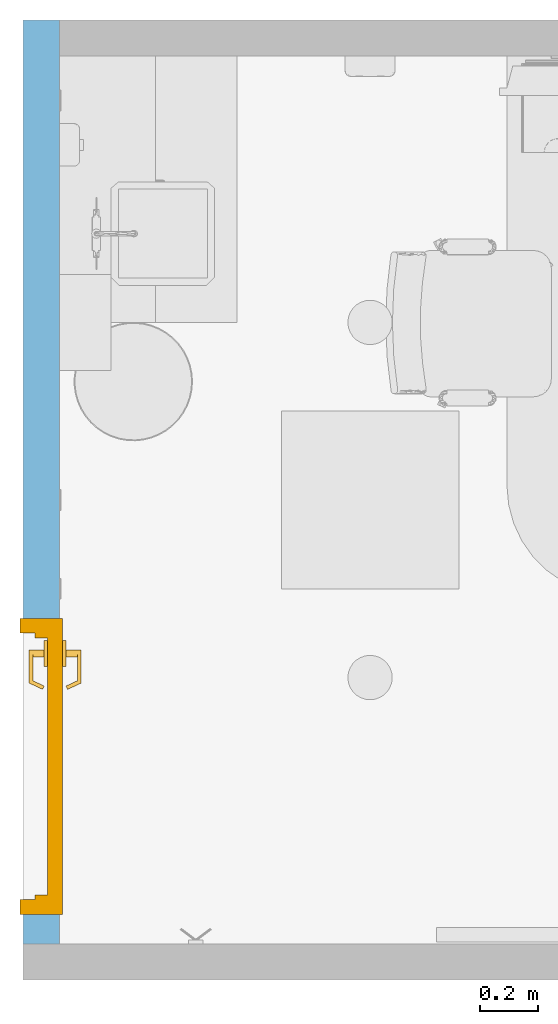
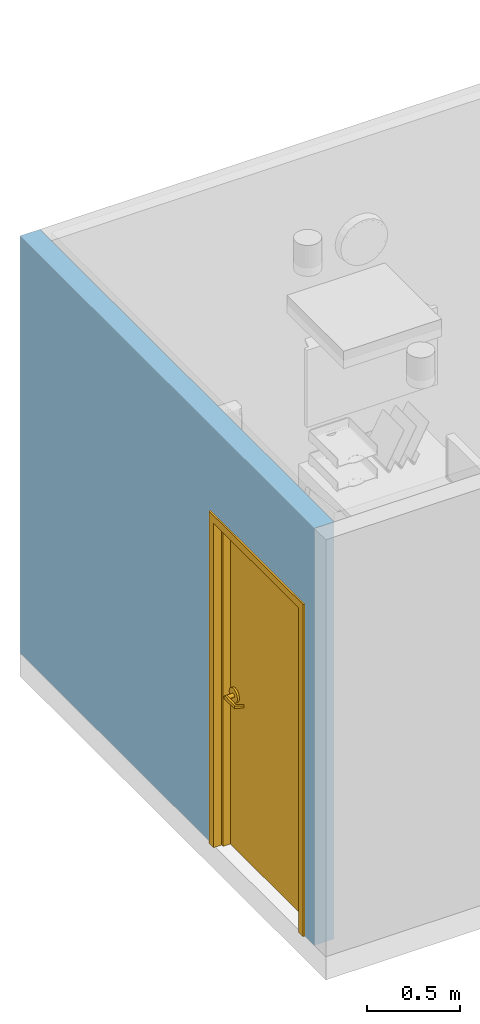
# One storey, part 2 of 10: 1 door, 1 opening, plus 1 element that does not belong to this part.
"""IFC2X3 building model written with IfcOpenShell, lengths in feet."""

import ifcopenshell
import ifcopenshell.guid

model = None  # the IFC model being written
_history = None  # IfcOwnerHistory: only IFC2X3 demands one
_inside = {}  # id of a spatial element -> (the spatial element, [elements in it])
_under = {}  # id of a project, library or spatial element -> (it, [spatial elements below it])
_declared = {}  # id of a project -> (the project, [libraries it declares])
_typed = {}  # id of a type object -> (the type object, [elements of that type])
_made_of = {}  # id of a material, layer set ... -> (it, [elements and type objects made of it])


def new_model(schema):
    """Start an empty IFC model of exactly this schema.

    Asked for "IFC4X3", IfcOpenShell would pick the latest addendum, in which some entities
    have other attributes; the version numbers below select the first issue.
    IFC2X3 requires an IfcOwnerHistory on every rooted entity: one is made here for all.
    """
    global model, _history
    if schema == "IFC4X3":
        model = ifcopenshell.file(schema_version=(4, 3, 0, 0))
    else:
        model = ifcopenshell.file(schema=schema)
    _inside.clear()
    _under.clear()
    _declared.clear()
    _typed.clear()
    _made_of.clear()
    _history = None
    if model.schema == "IFC2X3":
        org = make("IfcOrganization", Name="unknown")
        user = make(
            "IfcPersonAndOrganization",
            ThePerson=make("IfcPerson", FamilyName="unknown"),
            TheOrganization=org,
        )
        app = make(
            "IfcApplication",
            ApplicationDeveloper=org,
            Version="unknown",
            ApplicationFullName="unknown",
            ApplicationIdentifier="unknown",
        )
        _history = make(
            "IfcOwnerHistory",
            OwningUser=user,
            OwningApplication=app,
            ChangeAction="ADDED",
            CreationDate=0,
        )
    return model


def make(cls, **values):
    """One entity of the class cls with the attributes given. An attribute that is None is left unset."""
    return model.create_entity(
        cls, **{name: value for name, value in values.items() if value is not None}
    )


def entity(cls, *values):
    """Any entity or typed value of the class cls, its attributes in the order of the schema. None: left unset."""
    e = model.create_entity(cls)
    for i, value in enumerate(values):
        if value is not None:
            e[i] = value
    return e


def rooted(cls, **values):
    """An entity with a GlobalId (a new one), such as an element, a storey or a relation."""
    return make(cls, GlobalId=ifcopenshell.guid.new(), OwnerHistory=_history, **values)


def si_unit(unit_type, name, prefix=None):
    """IfcSIUnit, for example si_unit("LENGTHUNIT", "METRE", prefix="MILLI")."""
    return make("IfcSIUnit", UnitType=unit_type, Prefix=prefix, Name=name)


def converted_unit(unit_type, name, factor, base, dimensions=None, offset=None):
    """IfcConversionBasedUnit, such as the inch: factor (a typed value) times the base unit."""
    return make(
        "IfcConversionBasedUnit"
        if offset is None
        else "IfcConversionBasedUnitWithOffset",
        ConversionOffset=offset,
        Dimensions=None
        if dimensions is None
        else entity("IfcDimensionalExponents", *dimensions),
        UnitType=unit_type,
        Name=name,
        ConversionFactor=make(
            "IfcMeasureWithUnit", ValueComponent=factor, UnitComponent=base
        ),
    )


def derived_unit(unit_type, elements):
    """IfcDerivedUnit: a product of units, each with its exponent."""
    return make(
        "IfcDerivedUnit",
        Elements=[
            make("IfcDerivedUnitElement", Unit=unit, Exponent=power)
            for unit, power in elements
        ],
        UnitType=unit_type,
    )


def assignment(units):
    """IfcUnitAssignment: the units of a project."""
    return None if units is None else make("IfcUnitAssignment", Units=units)


def point(xyz):
    """IfcCartesianPoint."""
    return None if xyz is None else make("IfcCartesianPoint", Coordinates=xyz)


def direction(xyz):
    """IfcDirection."""
    return None if xyz is None else make("IfcDirection", DirectionRatios=xyz)


def frame(location, z_axis=None, x_axis=None):
    """IfcAxis2Placement3D, a coordinate frame: its origin and axes. An axis left out is left unset."""
    return make(
        "IfcAxis2Placement3D",
        Location=point(location),
        Axis=direction(z_axis),
        RefDirection=direction(x_axis),
    )


def frame_2d(location, x_axis=None):
    """IfcAxis2Placement2D, a coordinate frame in the plane: its origin and x axis."""
    return make(
        "IfcAxis2Placement2D", Location=point(location), RefDirection=direction(x_axis)
    )


def origin():
    """The frame at (0, 0, 0) with its axes left unset."""
    return frame((0.0, 0.0, 0.0))


def place(relative_to, where):
    """IfcLocalPlacement: puts the frame where relative to a parent placement (None: the world)."""
    return make(
        "IfcLocalPlacement", PlacementRelTo=relative_to, RelativePlacement=where
    )


def context(
    kind, dimensions, precision=None, world=None, true_north=None, identifier=None
):
    """IfcGeometricRepresentationContext, for example the 3D "Model" context."""
    return make(
        "IfcGeometricRepresentationContext",
        ContextIdentifier=identifier,
        ContextType=kind,
        CoordinateSpaceDimension=dimensions,
        Precision=precision,
        WorldCoordinateSystem=world,
        TrueNorth=true_north,
    )


def subcontext(parent, identifier, kind, view, scale=None):
    """IfcGeometricRepresentationSubContext, for example "Body" below "Model"."""
    return make(
        "IfcGeometricRepresentationSubContext",
        ContextIdentifier=identifier,
        ContextType=kind,
        ParentContext=parent,
        TargetScale=scale,
        TargetView=view,
    )


def project(units=None, contexts=None):
    """IfcProject with its units and contexts."""
    return rooted(
        "IfcProject",
        Name="project",
        RepresentationContexts=contexts,
        UnitsInContext=assignment(units),
    )


def spatial(cls, under=None, at=None, **own):
    """A site, building, storey or space (cls), placed at a placement, below another one or the project."""
    s = rooted(cls, ObjectPlacement=at, **own)
    if under is not None:
        _under.setdefault(under.id(), (under, []))[1].append(s)
    return s


def profile(cls, at=None, kind="AREA", **sizes):
    """A parametric profile (cls). Its sizes go by their IFC names, for example OverallWidth=200.0."""
    return make(cls, ProfileType=kind, Position=at, **sizes)


def rectangle(**sizes):
    """IfcRectangleProfileDef."""
    return profile("IfcRectangleProfileDef", **sizes)


def extrude(swept, where, along, depth):
    """IfcExtrudedAreaSolid: the profile swept, set in the frame where, extruded along a direction by depth."""
    return make(
        "IfcExtrudedAreaSolid",
        SweptArea=swept,
        Position=where,
        ExtrudedDirection=direction(along),
        Depth=depth,
    )


def faces_of(points, faces, orient=None, outer=None):
    """IfcFace entities. A face is a list of loops; a loop is a list of indices into points, from 0.

    orient and outer hold one flag for each loop. By default every Orientation is true, the
    first loop of a face is its IfcFaceOuterBound and the others are IfcFaceBound.
    """
    made = []
    for i, loops in enumerate(faces):
        bounds = []
        for j, loop in enumerate(loops):
            is_outer = j == 0 if outer is None else outer[i][j]
            bounds.append(
                make(
                    "IfcFaceOuterBound" if is_outer else "IfcFaceBound",
                    Bound=make("IfcPolyLoop", Polygon=[points[k] for k in loop]),
                    Orientation=True if orient is None else orient[i][j],
                )
            )
        made.append(make("IfcFace", Bounds=bounds))
    return made


def faceted_brep(points, faces, orient=None, outer=None, voids=None):
    """IfcFacetedBrep: a solid bounded by flat faces; with voids (closed shells), ...WithVoids."""
    shared = [point(p) for p in points]
    hull = make("IfcClosedShell", CfsFaces=faces_of(shared, faces, orient, outer))
    if voids is None:
        return make("IfcFacetedBrep", Outer=hull)
    return make(
        "IfcFacetedBrepWithVoids",
        Outer=hull,
        Voids=[
            make(cls, CfsFaces=faces_of(shared, fs, o, b)) for cls, fs, o, b in voids
        ],
    )


def shape(context_of_items, identifier, shape_type, items):
    """IfcShapeRepresentation: the items that make up one representation, for example the "Body"."""
    return make(
        "IfcShapeRepresentation",
        ContextOfItems=context_of_items,
        RepresentationIdentifier=identifier,
        RepresentationType=shape_type,
        Items=items,
    )


def source(mapping_origin, context_of_items, identifier, shape_type, items):
    """IfcRepresentationMap: a shape defined once, which mapped items show again and again."""
    return make(
        "IfcRepresentationMap",
        MappingOrigin=mapping_origin,
        MappedRepresentation=shape(context_of_items, identifier, shape_type, items),
    )


def transform(
    local_origin,
    x_axis=None,
    y_axis=None,
    z_axis=None,
    scale=None,
    scale2=None,
    scale3=None,
    uniform=True,
):
    """IfcCartesianTransformationOperator3D, or its non-uniform kind. x_axis, y_axis, z_axis: its Axis1, 2, 3."""
    if uniform:
        return make(
            "IfcCartesianTransformationOperator3D",
            Axis1=direction(x_axis),
            Axis2=direction(y_axis),
            LocalOrigin=point(local_origin),
            Scale=scale,
            Axis3=direction(z_axis),
        )
    return make(
        "IfcCartesianTransformationOperator3DnonUniform",
        Axis1=direction(x_axis),
        Axis2=direction(y_axis),
        LocalOrigin=point(local_origin),
        Scale=scale,
        Axis3=direction(z_axis),
        Scale2=scale2,
        Scale3=scale3,
    )


def mapped(mapping_source, mapping_target):
    """IfcMappedItem: shows the shape of a source again, moved by a transform."""
    return make(
        "IfcMappedItem", MappingSource=mapping_source, MappingTarget=mapping_target
    )


def material(Name=None, Category=None):
    """IfcMaterial."""
    return make("IfcMaterial", Name=Name, Category=Category)


def layer(
    of_material, thickness, ventilated=None, Name=None, Category=None, Priority=None
):
    """IfcMaterialLayer: one layer of a wall or slab, of a material (None: an air gap)."""
    return make(
        "IfcMaterialLayer",
        Material=of_material,
        LayerThickness=thickness,
        IsVentilated=ventilated,
        Name=Name,
        Category=Category,
        Priority=Priority,
    )


def layer_set(layers, Name=None):
    """IfcMaterialLayerSet."""
    return make("IfcMaterialLayerSet", MaterialLayers=layers, LayerSetName=Name)


def layer_usage(for_layer_set, set_direction, sense, offset, extent=None):
    """IfcMaterialLayerSetUsage: how a layer set lies in its element."""
    return make(
        "IfcMaterialLayerSetUsage",
        ForLayerSet=for_layer_set,
        LayerSetDirection=set_direction,
        DirectionSense=sense,
        OffsetFromReferenceLine=offset,
        ReferenceExtent=extent,
    )


def made_of(thing, what):
    """Note that an element or type object is made of a material, layer set ...; save() writes the relation."""
    if what is not None:
        _made_of.setdefault(what.id(), (what, []))[1].append(thing)
    return thing


def type_object(cls, material=None, **own):
    """A type object (cls), such as IfcWallType, which elements share."""
    return made_of(rooted(cls, **own), material)


def type_shapes(of_type, sources):
    """Give a type object the sources (RepresentationMaps) that its elements show as mapped items."""
    of_type.RepresentationMaps = sources


def element(
    cls,
    number,
    at=None,
    inside=None,
    cuts=None,
    type_object=None,
    material=None,
    context=None,
    identifier="Body",
    shape_type=None,
    held_by="IfcProductDefinitionShape",
    body=None,
    shapes=None,
    **own,
):
    """One element of the class cls, such as IfcWall. Its Tag is "e" and its number.

    at: its placement. inside: the storey or other place that contains it. cuts: it is an
    opening in that element (IfcRelVoidsElement). A single representation is given by context,
    identifier, shape_type and body (its items); several are given by shapes. held_by: the class
    of the entity that holds the representations. save() writes the other relations.
    """
    e = rooted(cls, Tag="e%d" % number, ObjectPlacement=at, **own)
    if body is not None:
        shapes = [shape(context, identifier, shape_type, body)]
    if shapes is not None:
        e.Representation = make(held_by, Representations=shapes)
    if inside is not None:
        _inside.setdefault(inside.id(), (inside, []))[1].append(e)
    if cuts is not None:
        rooted(
            "IfcRelVoidsElement", RelatingBuildingElement=cuts, RelatedOpeningElement=e
        )
    if type_object is not None:
        _typed.setdefault(type_object.id(), (type_object, []))[1].append(e)
    return made_of(e, material)


def fill(opening, filler):
    """IfcRelFillsElement: the door or window that sits in an opening."""
    return rooted(
        "IfcRelFillsElement",
        RelatingOpeningElement=opening,
        RelatedBuildingElement=filler,
    )


def aggregate(whole, parts):
    """IfcRelAggregates: a whole, such as a stair, and the parts it consists of."""
    return rooted("IfcRelAggregates", RelatingObject=whole, RelatedObjects=parts)


def save(model, path):
    """Write the relations noted so far, then the file.

    IfcRelAggregates (storeys below a building ...), IfcRelContainedInSpatialStructure (elements
    in a storey), IfcRelDefinesByType, IfcRelAssociatesMaterial and IfcRelDeclares: one each for
    every whole, place, type object, material and project.
    """
    for whole, parts in _under.values():
        aggregate(whole, parts)
    for where, things in _inside.values():
        rooted(
            "IfcRelContainedInSpatialStructure",
            RelatedElements=things,
            RelatingStructure=where,
        )
    for kind, things in _typed.values():
        rooted("IfcRelDefinesByType", RelatedObjects=things, RelatingType=kind)
    for what, things in _made_of.values():
        rooted("IfcRelAssociatesMaterial", RelatedObjects=things, RelatingMaterial=what)
    for by, libraries in _declared.values():
        rooted("IfcRelDeclares", RelatingContext=by, RelatedDefinitions=libraries)
    model.write(path)


model = new_model("IFC2X3")

# Units and contexts
model_context = context("Model", 3, precision=0.0001, world=origin(), true_north=direction((6.12303176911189e-17, 1.0)))
body_context = subcontext(model_context, "Body", "Model", "MODEL_VIEW")
ifc_project = project(units=[converted_unit("LENGTHUNIT", "FOOT", entity("IfcRatioMeasure", 0.3048), si_unit("LENGTHUNIT", "METRE"), dimensions=[1, 0, 0, 0, 0, 0, 0]), converted_unit("AREAUNIT", "SQUARE FOOT", entity("IfcRatioMeasure", 0.09290304), si_unit("AREAUNIT", "SQUARE_METRE"), dimensions=[2, 0, 0, 0, 0, 0, 0]), converted_unit("VOLUMEUNIT", "CUBIC FOOT", entity("IfcRatioMeasure", 0.028316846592), si_unit("VOLUMEUNIT", "CUBIC_METRE"), dimensions=[3, 0, 0, 0, 0, 0, 0]), converted_unit("PLANEANGLEUNIT", "DEGREE", entity("IfcRatioMeasure", 0.0174532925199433), si_unit("PLANEANGLEUNIT", "RADIAN"), dimensions=[0, 0, 0, 0, 0, 0, 0]), si_unit("MASSUNIT", "GRAM", prefix="KILO"), derived_unit("MASSDENSITYUNIT", [(si_unit("MASSUNIT", "GRAM", prefix="KILO"), 1), (si_unit("LENGTHUNIT", "METRE"), -3)]), si_unit("TIMEUNIT", "SECOND"), si_unit("FREQUENCYUNIT", "HERTZ"), si_unit("THERMODYNAMICTEMPERATUREUNIT", "DEGREE_CELSIUS"), derived_unit("THERMALTRANSMITTANCEUNIT", [(si_unit("MASSUNIT", "GRAM", prefix="KILO"), 1), (si_unit("THERMODYNAMICTEMPERATUREUNIT", "KELVIN"), -1), (si_unit("TIMEUNIT", "SECOND"), -3)]), derived_unit("VOLUMETRICFLOWRATEUNIT", [(si_unit("LENGTHUNIT", "METRE"), 3), (si_unit("TIMEUNIT", "SECOND"), -1)]), si_unit("ELECTRICCURRENTUNIT", "AMPERE"), si_unit("ELECTRICVOLTAGEUNIT", "VOLT"), si_unit("POWERUNIT", "WATT"), si_unit("FORCEUNIT", "NEWTON"), si_unit("ILLUMINANCEUNIT", "LUX"), si_unit("LUMINOUSFLUXUNIT", "LUMEN"), si_unit("LUMINOUSINTENSITYUNIT", "CANDELA"), derived_unit("USERDEFINED", [(si_unit("MASSUNIT", "GRAM", prefix="KILO"), -1), (si_unit("LENGTHUNIT", "METRE"), -2), (si_unit("TIMEUNIT", "SECOND"), 3), (si_unit("LUMINOUSFLUXUNIT", "LUMEN"), 1)]), derived_unit("LINEARVELOCITYUNIT", [(si_unit("LENGTHUNIT", "METRE"), 1), (si_unit("TIMEUNIT", "SECOND"), -1)]), si_unit("PRESSUREUNIT", "PASCAL"), derived_unit("USERDEFINED", [(si_unit("LENGTHUNIT", "METRE"), -2), (si_unit("MASSUNIT", "GRAM", prefix="KILO"), 1), (si_unit("TIMEUNIT", "SECOND"), -2)])], contexts=[model_context])

# Site, building, storey
site_placement = place(None, origin())
site = spatial("IfcSite", under=ifc_project, at=site_placement, Name="Default", CompositionType="ELEMENT")
building_placement = place(site_placement, origin())
building = spatial("IfcBuilding", under=site, at=building_placement, Name="OUTPATIENT / PACT CLINIC (Ch. 265)", CompositionType="ELEMENT")
storey_placement = place(building_placement, origin())
storey = spatial("IfcBuildingStorey", under=building, at=storey_placement, Name="DATUM", CompositionType="ELEMENT", Elevation=0.0)

# Wall, opening, door
ifc_material = material(Name="<Unnamed>")
ifc_layer = layer(ifc_material, 0.40625)
ifc_layer_set = layer_set([ifc_layer], Name="Basic Wall:Interior - 4 7/8\"")
ifc_layer_usage = layer_usage(ifc_layer_set, "AXIS2", "NEGATIVE", 0.203125)
wall_type = type_object("IfcWallType", Name="Basic Wall:Interior - 4 7/8\"", PredefinedType="STANDARD", material=ifc_layer_set)
wall_placement = place(storey_placement, frame((-78.4584893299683, -861.690450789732, 0.0), z_axis=(0.0, 0.0, 1.0), x_axis=(0.0, 1.0, 0.0)))
wall = element("IfcWallStandardCase", 1, at=wall_placement, inside=storey, type_object=wall_type, material=ifc_layer_usage, Name="Basic Wall:Interior - 4 7/8\"", ObjectType="Basic Wall:Interior - 4 7/8\"", context=body_context, shape_type="SweptSolid", body=[
    extrude(rectangle(XDim=10.40625, YDim=0.40625, at=frame_2d((5.203125, 7.91033905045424e-16), x_axis=(-1.0, 0.0))), origin(), (0.0, 0.0, 1.0), 9.0),
])
opening_placement = place(wall_placement, frame((3.66666666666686, 0.203125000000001, 0.0)))
opening = element("IfcOpeningElement", 2, at=opening_placement, cuts=wall, Name="Single - Flush:36\" x 84\":1", ObjectType="Opening", context=body_context, shape_type="SweptSolid", body=[
    extrude(rectangle(XDim=3.33333333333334, YDim=7.16666666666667, at=frame_2d((3.58333333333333, 1.66666666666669), x_axis=(0.0, 1.0))), frame((0.0, 0.0, 0.0), z_axis=(0.0, -1.0, 0.0), x_axis=(0.0, 0.0, 1.0)), (0.0, 0.0, 1.0), 0.40625),
])
door_style = type_object("IfcDoorStyle", Name="36\" x 84\"", ConstructionType="NOTDEFINED", OperationType="NOTDEFINED", ParameterTakesPrecedence=False, Sizeable=False)
shared_shape = source(origin(), body_context, "Body", "Brep", [
    faceted_brep([(-2.57149311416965, 0.23636872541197, 3.3541666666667), (-2.57149311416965, 0.23636872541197, 3.31250000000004), (-2.62432039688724, 0.12308025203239, 3.30208333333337), (-2.63071126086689, 0.109375, 3.30208333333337), (-2.63071126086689, 0.109375, 3.36458333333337), (-2.62432039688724, 0.123080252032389, 3.36458333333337), (-2.53373028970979, 0.218759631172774, 3.3541666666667), (-2.58655757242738, 0.105471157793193, 3.36458333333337), (-2.60416666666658, 0.0677083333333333, 3.36458333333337), (-2.60416666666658, 0.0677083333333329, 3.30208333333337), (-2.58655757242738, 0.105471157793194, 3.30208333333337), (-2.53373028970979, 0.218759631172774, 3.31250000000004), (-2.60416666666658, 0.109375, 3.30208333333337), (-2.60416666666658, 0.109375, 3.36458333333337), (-2.93619600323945, 0.0677083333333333, 3.29168707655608), (-2.93619600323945, 0.0677083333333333, 3.37497959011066), (-2.94639661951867, 0.0677083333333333, 3.37403912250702), (-2.95605949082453, 0.0677083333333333, 3.37063824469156), (-2.96460055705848, 0.0677083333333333, 3.36498251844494), (-2.97150356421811, 0.0677083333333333, 3.35741379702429), (-2.97635126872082, 0.0677083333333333, 3.34838956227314), (-2.97885065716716, 0.0677083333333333, 3.33845527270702), (-2.97885065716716, 0.0677083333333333, 3.32821139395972), (-2.97635126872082, 0.0677083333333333, 3.31827710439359), (-2.97150356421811, 0.0677083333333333, 3.30925286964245), (-2.96460055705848, 0.0677083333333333, 3.3016841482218), (-2.95605949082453, 0.0677083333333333, 3.29602842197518), (-2.94639661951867, 0.0677083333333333, 3.29262754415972), (-2.93619600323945, 0.109375, 3.29168707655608), (-2.92566985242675, 0.109375, 3.29338137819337), (-2.91591827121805, 0.109375, 3.29769150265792), (-2.90757973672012, 0.109375, 3.30433524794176), (-2.90120020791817, 0.109375, 3.31287762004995), (-2.89719737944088, 0.109375, 3.32275931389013), (-2.89583333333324, 0.109375, 3.33333333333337), (-2.89719737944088, 0.109375, 3.34390735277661), (-2.90120020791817, 0.109375, 3.35378904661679), (-2.90757973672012, 0.109375, 3.36233141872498), (-2.91591827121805, 0.109375, 3.36897516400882), (-2.92566985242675, 0.109375, 3.37328528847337), (-2.93619600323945, 0.109375, 3.37497959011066), (-2.94568224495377, 0.109375, 3.29247795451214), (-2.95473886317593, 0.109375, 3.2954000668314), (-2.96972778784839, 0.109375, 3.30692347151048), (-2.96289592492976, 0.109375, 3.30030065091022), (-2.97487870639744, 0.109375, 3.31492291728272), (-2.97808054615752, 0.109375, 3.32388185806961), (-2.97916666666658, 0.109375, 3.33333333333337), (-2.97808054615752, 0.109375, 3.34278480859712), (-2.97487870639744, 0.109375, 3.35174374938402), (-2.96289592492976, 0.109375, 3.36636601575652), (-2.96972778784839, 0.109375, 3.35974319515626), (-2.95473886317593, 0.109375, 3.37126659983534), (-2.94568224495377, 0.109375, 3.3741887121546), (-2.97916666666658, 0.234375, 3.33333333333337), (-2.97774690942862, 0.234375, 3.34411746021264), (-2.97358439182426, 0.234375, 3.3541666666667), (-2.95833333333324, 0.234375, 3.36941772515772), (-2.96696278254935, 0.234375, 3.36279611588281), (-2.94828412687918, 0.234375, 3.37358024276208), (-2.93749999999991, 0.234375, 3.37500000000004), (-2.92671587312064, 0.234375, 3.37358024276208), (-2.91666666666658, 0.234375, 3.36941772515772), (-2.90141560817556, 0.234375, 3.3541666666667), (-2.90803721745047, 0.234375, 3.36279611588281), (-2.8972530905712, 0.234375, 3.34411746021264), (-2.89583333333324, 0.234375, 3.33333333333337), (-2.8972530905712, 0.234375, 3.3225492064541), (-2.90141560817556, 0.234375, 3.31250000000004), (-2.91666666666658, 0.234375, 3.29724894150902), (-2.90803721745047, 0.234375, 3.30387055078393), (-2.92671587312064, 0.234375, 3.29308642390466), (-2.93749999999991, 0.234375, 3.2916666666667), (-2.94828412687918, 0.234375, 3.29308642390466), (-2.95833333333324, 0.234375, 3.29724894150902), (-2.97358439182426, 0.234375, 3.31250000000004), (-2.96696278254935, 0.234375, 3.30387055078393), (-2.97774690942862, 0.234375, 3.3225492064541), (-2.86458333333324, 0.234375, 3.4596287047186), (-2.83438026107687, 0.234375, 3.43645307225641), (-2.89975555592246, 0.234375, 3.47419751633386), (-2.93749999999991, 0.234375, 3.4791666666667), (-2.97524444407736, 0.234375, 3.47419751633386), (-3.01041666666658, 0.234375, 3.4596287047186), (-3.04061973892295, 0.234375, 3.43645307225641), (-3.06379537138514, 0.234375, 3.40625000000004), (-3.0783641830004, 0.234375, 3.37107777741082), (-3.08333333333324, 0.234375, 3.33333333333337), (-3.0783641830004, 0.234375, 3.29558888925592), (-3.06379537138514, 0.234375, 3.2604166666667), (-3.04061973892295, 0.234375, 3.23021359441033), (-3.01041666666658, 0.234375, 3.20703796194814), (-2.97524444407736, 0.234375, 3.19246915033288), (-2.93749999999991, 0.234375, 3.18750000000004), (-2.89975555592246, 0.234375, 3.19246915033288), (-2.86458333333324, 0.234375, 3.20703796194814), (-2.83438026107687, 0.234375, 3.23021359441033), (-2.81120462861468, 0.234375, 3.2604166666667), (-2.79663581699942, 0.234375, 3.29558888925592), (-2.79166666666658, 0.234375, 3.33333333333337), (-2.79663581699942, 0.234375, 3.37107777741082), (-2.81120462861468, 0.234375, 3.40625000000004), (-2.89975555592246, 0.276041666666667, 3.19246915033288), (-2.93749999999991, 0.276041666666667, 3.18750000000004), (-2.97524444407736, 0.276041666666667, 3.19246915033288), (-3.01041666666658, 0.276041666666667, 3.20703796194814), (-3.04061973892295, 0.276041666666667, 3.23021359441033), (-3.06379537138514, 0.276041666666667, 3.2604166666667), (-3.0783641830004, 0.276041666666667, 3.29558888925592), (-3.08333333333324, 0.276041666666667, 3.33333333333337), (-3.0783641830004, 0.276041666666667, 3.37107777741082), (-3.06379537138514, 0.276041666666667, 3.40625000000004), (-3.04061973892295, 0.276041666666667, 3.43645307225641), (-3.01041666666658, 0.276041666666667, 3.4596287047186), (-2.97524444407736, 0.276041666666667, 3.47419751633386), (-2.93749999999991, 0.276041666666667, 3.4791666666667), (-2.89975555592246, 0.276041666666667, 3.47419751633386), (-2.86458333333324, 0.276041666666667, 3.4596287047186), (-2.83438026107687, 0.276041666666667, 3.43645307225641), (-2.81120462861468, 0.276041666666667, 3.40625000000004), (-2.79663581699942, 0.276041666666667, 3.37107777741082), (-2.79166666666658, 0.276041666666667, 3.33333333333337), (-2.79663581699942, 0.276041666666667, 3.29558888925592), (-2.81120462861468, 0.276041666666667, 3.2604166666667), (-2.83438026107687, 0.276041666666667, 3.23021359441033), (-2.86458333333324, 0.276041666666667, 3.20703796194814)], [[[0, 1, 2, 3, 4, 5]], [[6, 7, 8, 9, 10, 11]], [[12, 3, 2, 10, 9]], [[11, 10, 2, 1]], [[11, 1, 0, 6]], [[7, 6, 0, 5]], [[13, 8, 7, 5, 4]], [[14, 9, 8, 15, 16, 17, 18, 19, 20, 21, 22, 23, 24, 25, 26, 27]], [[3, 12, 28, 29, 30, 31, 32, 33, 34, 35, 36, 37, 38, 39, 40, 13, 4]], [[28, 12, 9, 14]], [[28, 14, 41]], [[41, 27, 42]], [[43, 44, 25]], [[24, 45, 43]], [[26, 44, 42]], [[45, 23, 46]], [[27, 26, 42]], [[41, 14, 27]], [[45, 24, 23]], [[24, 43, 25]], [[44, 26, 25]], [[46, 23, 22]], [[22, 47, 46]], [[47, 21, 48]], [[48, 20, 49]], [[50, 51, 18]], [[17, 52, 50]], [[19, 51, 49]], [[52, 16, 53]], [[51, 19, 18]], [[49, 20, 19]], [[48, 21, 20]], [[53, 16, 15]], [[16, 52, 17]], [[50, 18, 17]], [[40, 53, 15]], [[22, 21, 47]], [[40, 15, 8, 13]], [[54, 48, 55]], [[55, 49, 56]], [[57, 58, 50]], [[51, 58, 56]], [[59, 57, 52]], [[48, 49, 55]], [[54, 47, 48]], [[57, 50, 52]], [[50, 58, 51]], [[56, 49, 51]], [[59, 52, 53]], [[53, 60, 59]], [[60, 40, 61]], [[61, 39, 62]], [[63, 64, 37]], [[36, 65, 63]], [[38, 64, 62]], [[65, 35, 66]], [[39, 38, 62]], [[61, 40, 39]], [[65, 36, 35]], [[36, 63, 37]], [[64, 38, 37]], [[66, 35, 34]], [[53, 40, 60]], [[66, 33, 67]], [[67, 32, 68]], [[69, 70, 30]], [[31, 70, 68]], [[71, 69, 29]], [[33, 32, 67]], [[66, 34, 33]], [[69, 30, 29]], [[30, 70, 31]], [[68, 32, 31]], [[71, 29, 28]], [[28, 72, 71]], [[72, 41, 73]], [[73, 42, 74]], [[75, 76, 43]], [[45, 77, 75]], [[44, 76, 74]], [[77, 46, 54]], [[42, 44, 74]], [[73, 41, 42]], [[77, 45, 46]], [[45, 75, 43]], [[76, 44, 43]], [[54, 46, 47]], [[28, 41, 72]], [[78, 61, 62]], [[78, 62, 79]], [[78, 80, 61]], [[60, 61, 80]], [[81, 60, 80]], [[60, 81, 59]], [[82, 59, 81]], [[82, 57, 59]], [[57, 82, 83]], [[57, 83, 58]], [[84, 58, 83]], [[58, 84, 56]], [[56, 84, 85]], [[56, 85, 55]], [[55, 85, 86]], [[54, 55, 86]], [[87, 54, 86]], [[77, 54, 87]], [[88, 77, 87]], [[75, 77, 88]], [[89, 75, 88]], [[75, 89, 90]], [[76, 75, 90]], [[90, 91, 76]], [[91, 74, 76]], [[74, 91, 92]], [[74, 92, 73]], [[92, 93, 73]], [[72, 73, 93]], [[93, 94, 72]], [[72, 94, 71]], [[95, 71, 94]], [[71, 95, 69]], [[69, 95, 96]], [[70, 69, 96]], [[97, 70, 96]], [[68, 70, 97]], [[98, 68, 97]], [[68, 98, 67]], [[67, 98, 99]], [[99, 66, 67]], [[99, 100, 66]], [[65, 66, 100]], [[101, 65, 100]], [[64, 101, 79]], [[101, 63, 65]], [[63, 101, 64]], [[64, 79, 62]], [[102, 103, 104, 105, 106, 107, 108, 109, 110, 111, 112, 113, 114, 115, 116, 117, 118, 119, 120, 121, 122, 123, 124, 125]], [[109, 87, 86, 110]], [[110, 86, 85, 111]], [[113, 112, 84, 83]], [[84, 112, 111, 85]], [[114, 113, 83, 82]], [[114, 82, 81, 115]], [[115, 81, 80, 116]], [[116, 80, 78, 117]], [[119, 118, 79, 101]], [[79, 118, 117, 78]], [[120, 119, 101, 100]], [[120, 100, 99, 121]], [[121, 99, 98, 122]], [[122, 98, 97, 123]], [[125, 124, 96, 95]], [[96, 124, 123, 97]], [[102, 125, 95, 94]], [[102, 94, 93, 103]], [[103, 93, 92, 104]], [[104, 92, 91, 105]], [[107, 106, 90, 89]], [[90, 106, 105, 91]], [[108, 107, 89, 88]], [[108, 88, 87, 109]]]),
    faceted_brep([(-2.57149311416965, 0.482381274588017, 3.31249999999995), (-2.57149311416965, 0.482381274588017, 3.35416666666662), (-2.62432039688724, 0.595669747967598, 3.36458333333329), (-2.63071126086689, 0.609374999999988, 3.36458333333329), (-2.63071126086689, 0.609374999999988, 3.30208333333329), (-2.62432039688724, 0.595669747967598, 3.30208333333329), (-2.53373028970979, 0.499990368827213, 3.31249999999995), (-2.58655757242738, 0.613278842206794, 3.30208333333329), (-2.60416666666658, 0.651041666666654, 3.30208333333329), (-2.60416666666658, 0.651041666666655, 3.36458333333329), (-2.58655757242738, 0.613278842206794, 3.36458333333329), (-2.53373028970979, 0.499990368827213, 3.35416666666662), (-2.60416666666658, 0.609374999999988, 3.36458333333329), (-2.60416666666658, 0.609374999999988, 3.30208333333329), (-2.93619600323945, 0.651041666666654, 3.37497959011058), (-2.93619600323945, 0.651041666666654, 3.291687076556), (-2.94639661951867, 0.651041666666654, 3.29262754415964), (-2.95605949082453, 0.651041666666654, 3.2960284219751), (-2.96460055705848, 0.651041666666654, 3.30168414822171), (-2.97150356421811, 0.651041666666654, 3.30925286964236), (-2.97635126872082, 0.651041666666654, 3.31827710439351), (-2.97885065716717, 0.651041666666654, 3.32821139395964), (-2.97885065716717, 0.651041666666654, 3.33845527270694), (-2.97635126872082, 0.651041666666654, 3.34838956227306), (-2.97150356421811, 0.651041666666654, 3.35741379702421), (-2.96460055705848, 0.651041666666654, 3.36498251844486), (-2.95605949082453, 0.651041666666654, 3.37063824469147), (-2.94639661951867, 0.651041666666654, 3.37403912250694), (-2.93619600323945, 0.609374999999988, 3.37497959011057), (-2.92566985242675, 0.609374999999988, 3.37328528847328), (-2.91591827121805, 0.609374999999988, 3.36897516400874), (-2.90757973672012, 0.609374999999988, 3.3623314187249), (-2.90120020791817, 0.609374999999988, 3.35378904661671), (-2.89719737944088, 0.609374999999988, 3.34390735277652), (-2.89583333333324, 0.609374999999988, 3.33333333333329), (-2.89719737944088, 0.609374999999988, 3.32275931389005), (-2.90120020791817, 0.609374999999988, 3.31287762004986), (-2.90757973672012, 0.609374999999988, 3.30433524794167), (-2.91591827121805, 0.609374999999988, 3.29769150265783), (-2.92566985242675, 0.609374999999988, 3.29338137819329), (-2.93619600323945, 0.609374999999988, 3.291687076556), (-2.94568224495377, 0.609374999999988, 3.37418871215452), (-2.95473886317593, 0.609374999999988, 3.37126659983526), (-2.96972778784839, 0.609374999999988, 3.35974319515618), (-2.96289592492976, 0.609374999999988, 3.36636601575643), (-2.97487870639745, 0.609374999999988, 3.35174374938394), (-2.97808054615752, 0.609374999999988, 3.34278480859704), (-2.97916666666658, 0.609374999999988, 3.33333333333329), (-2.97808054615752, 0.609374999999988, 3.32388185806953), (-2.97487870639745, 0.609374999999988, 3.31492291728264), (-2.96289592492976, 0.609374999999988, 3.30030065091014), (-2.96972778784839, 0.609374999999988, 3.30692347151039), (-2.95473886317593, 0.609374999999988, 3.29540006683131), (-2.94568224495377, 0.609374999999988, 3.29247795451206), (-2.97916666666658, 0.484374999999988, 3.33333333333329), (-2.97774690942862, 0.484374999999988, 3.32254920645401), (-2.97358439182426, 0.484374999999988, 3.31249999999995), (-2.95833333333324, 0.484374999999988, 3.29724894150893), (-2.96696278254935, 0.484374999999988, 3.30387055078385), (-2.94828412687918, 0.484374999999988, 3.29308642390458), (-2.93749999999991, 0.484374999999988, 3.29166666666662), (-2.92671587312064, 0.484374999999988, 3.29308642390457), (-2.91666666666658, 0.484374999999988, 3.29724894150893), (-2.90141560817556, 0.484374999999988, 3.31249999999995), (-2.90803721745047, 0.484374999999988, 3.30387055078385), (-2.8972530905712, 0.484374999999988, 3.32254920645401), (-2.89583333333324, 0.484374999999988, 3.33333333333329), (-2.8972530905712, 0.484374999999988, 3.34411746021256), (-2.90141560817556, 0.484374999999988, 3.35416666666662), (-2.91666666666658, 0.484374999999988, 3.36941772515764), (-2.90803721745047, 0.484374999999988, 3.36279611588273), (-2.92671587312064, 0.484374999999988, 3.373580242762), (-2.93749999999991, 0.484374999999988, 3.37499999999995), (-2.94828412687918, 0.484374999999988, 3.373580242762), (-2.95833333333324, 0.484374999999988, 3.36941772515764), (-2.97358439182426, 0.484374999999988, 3.35416666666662), (-2.96696278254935, 0.484374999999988, 3.36279611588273), (-2.97774690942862, 0.484374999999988, 3.34411746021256), (-2.86458333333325, 0.484374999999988, 3.20703796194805), (-2.83438026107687, 0.484374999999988, 3.23021359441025), (-2.89975555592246, 0.484374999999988, 3.1924691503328), (-2.93749999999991, 0.484374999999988, 3.18749999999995), (-2.97524444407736, 0.484374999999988, 3.1924691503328), (-3.01041666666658, 0.484374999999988, 3.20703796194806), (-3.04061973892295, 0.484374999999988, 3.23021359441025), (-3.06379537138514, 0.484374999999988, 3.26041666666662), (-3.0783641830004, 0.484374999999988, 3.29558888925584), (-3.08333333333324, 0.484374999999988, 3.33333333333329), (-3.0783641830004, 0.484374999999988, 3.37107777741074), (-3.06379537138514, 0.484374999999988, 3.40624999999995), (-3.04061973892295, 0.484374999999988, 3.43645307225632), (-3.01041666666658, 0.484374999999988, 3.45962870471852), (-2.97524444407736, 0.484374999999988, 3.47419751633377), (-2.93749999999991, 0.484374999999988, 3.47916666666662), (-2.89975555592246, 0.484374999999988, 3.47419751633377), (-2.86458333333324, 0.484374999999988, 3.45962870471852), (-2.83438026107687, 0.484374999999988, 3.43645307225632), (-2.81120462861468, 0.484374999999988, 3.40624999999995), (-2.79663581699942, 0.484374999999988, 3.37107777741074), (-2.79166666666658, 0.484374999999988, 3.33333333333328), (-2.79663581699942, 0.484374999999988, 3.29558888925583), (-2.81120462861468, 0.484374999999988, 3.26041666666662), (-2.89975555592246, 0.442708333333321, 3.47419751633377), (-2.93749999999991, 0.442708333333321, 3.47916666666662), (-2.97524444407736, 0.442708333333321, 3.47419751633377), (-3.01041666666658, 0.442708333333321, 3.45962870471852), (-3.04061973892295, 0.442708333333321, 3.43645307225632), (-3.06379537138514, 0.442708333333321, 3.40624999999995), (-3.0783641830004, 0.442708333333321, 3.37107777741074), (-3.08333333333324, 0.442708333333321, 3.33333333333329), (-3.0783641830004, 0.442708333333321, 3.29558888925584), (-3.06379537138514, 0.442708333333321, 3.26041666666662), (-3.04061973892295, 0.442708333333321, 3.23021359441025), (-3.01041666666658, 0.442708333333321, 3.20703796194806), (-2.97524444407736, 0.442708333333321, 3.1924691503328), (-2.93749999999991, 0.442708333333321, 3.18749999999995), (-2.89975555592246, 0.442708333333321, 3.1924691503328), (-2.86458333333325, 0.442708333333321, 3.20703796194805), (-2.83438026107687, 0.442708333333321, 3.23021359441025), (-2.81120462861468, 0.442708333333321, 3.26041666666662), (-2.79663581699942, 0.442708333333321, 3.29558888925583), (-2.79166666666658, 0.442708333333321, 3.33333333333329), (-2.79663581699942, 0.442708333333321, 3.37107777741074), (-2.81120462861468, 0.442708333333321, 3.40624999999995), (-2.83438026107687, 0.442708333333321, 3.43645307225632), (-2.86458333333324, 0.442708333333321, 3.45962870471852)], [[[0, 1, 2, 3, 4, 5]], [[6, 7, 8, 9, 10, 11]], [[12, 3, 2, 10, 9]], [[11, 10, 2, 1]], [[11, 1, 0, 6]], [[7, 6, 0, 5]], [[13, 8, 7, 5, 4]], [[14, 9, 8, 15, 16, 17, 18, 19, 20, 21, 22, 23, 24, 25, 26, 27]], [[3, 12, 28, 29, 30, 31, 32, 33, 34, 35, 36, 37, 38, 39, 40, 13, 4]], [[28, 12, 9, 14]], [[28, 14, 41]], [[41, 27, 42]], [[43, 44, 25]], [[24, 45, 43]], [[26, 44, 42]], [[45, 23, 46]], [[27, 26, 42]], [[41, 14, 27]], [[45, 24, 23]], [[24, 43, 25]], [[44, 26, 25]], [[46, 23, 22]], [[22, 47, 46]], [[47, 21, 48]], [[48, 20, 49]], [[50, 51, 18]], [[17, 52, 50]], [[19, 51, 49]], [[52, 16, 53]], [[51, 19, 18]], [[49, 20, 19]], [[48, 21, 20]], [[53, 16, 15]], [[16, 52, 17]], [[50, 18, 17]], [[40, 53, 15]], [[22, 21, 47]], [[40, 15, 8, 13]], [[54, 48, 55]], [[55, 49, 56]], [[57, 58, 50]], [[51, 58, 56]], [[59, 57, 52]], [[48, 49, 55]], [[54, 47, 48]], [[57, 50, 52]], [[50, 58, 51]], [[56, 49, 51]], [[59, 52, 53]], [[53, 60, 59]], [[60, 40, 61]], [[61, 39, 62]], [[63, 64, 37]], [[36, 65, 63]], [[38, 64, 62]], [[65, 35, 66]], [[39, 38, 62]], [[61, 40, 39]], [[65, 36, 35]], [[36, 63, 37]], [[64, 38, 37]], [[66, 35, 34]], [[53, 40, 60]], [[66, 33, 67]], [[67, 32, 68]], [[69, 70, 30]], [[31, 70, 68]], [[71, 69, 29]], [[33, 32, 67]], [[66, 34, 33]], [[69, 30, 29]], [[30, 70, 31]], [[68, 32, 31]], [[71, 29, 28]], [[28, 72, 71]], [[72, 41, 73]], [[73, 42, 74]], [[75, 76, 43]], [[45, 77, 75]], [[44, 76, 74]], [[77, 46, 54]], [[42, 44, 74]], [[73, 41, 42]], [[77, 45, 46]], [[45, 75, 43]], [[76, 44, 43]], [[54, 46, 47]], [[28, 41, 72]], [[78, 61, 62]], [[78, 62, 79]], [[78, 80, 61]], [[60, 61, 80]], [[81, 60, 80]], [[60, 81, 59]], [[82, 59, 81]], [[82, 57, 59]], [[57, 82, 83]], [[57, 83, 58]], [[84, 58, 83]], [[58, 84, 56]], [[56, 84, 85]], [[56, 85, 55]], [[55, 85, 86]], [[54, 55, 86]], [[87, 54, 86]], [[77, 54, 87]], [[88, 77, 87]], [[75, 77, 88]], [[89, 75, 88]], [[75, 89, 90]], [[76, 75, 90]], [[90, 91, 76]], [[91, 74, 76]], [[74, 91, 92]], [[74, 92, 73]], [[92, 93, 73]], [[72, 73, 93]], [[93, 94, 72]], [[72, 94, 71]], [[95, 71, 94]], [[71, 95, 69]], [[69, 95, 96]], [[70, 69, 96]], [[97, 70, 96]], [[68, 70, 97]], [[98, 68, 97]], [[68, 98, 67]], [[67, 98, 99]], [[99, 66, 67]], [[99, 100, 66]], [[65, 66, 100]], [[101, 65, 100]], [[64, 101, 79]], [[101, 63, 65]], [[63, 101, 64]], [[64, 79, 62]], [[102, 103, 104, 105, 106, 107, 108, 109, 110, 111, 112, 113, 114, 115, 116, 117, 118, 119, 120, 121, 122, 123, 124, 125]], [[109, 87, 86, 110]], [[110, 86, 85, 111]], [[113, 112, 84, 83]], [[84, 112, 111, 85]], [[114, 113, 83, 82]], [[114, 82, 81, 115]], [[115, 81, 80, 116]], [[116, 80, 78, 117]], [[119, 118, 79, 101]], [[79, 118, 117, 78]], [[120, 119, 101, 100]], [[120, 100, 99, 121]], [[121, 99, 98, 122]], [[122, 98, 97, 123]], [[125, 124, 96, 95]], [[96, 124, 123, 97]], [[102, 125, 95, 94]], [[102, 94, 93, 103]], [[103, 93, 92, 104]], [[104, 92, 91, 105]], [[107, 106, 90, 89]], [[90, 106, 105, 91]], [[108, 107, 89, 88]], [[108, 88, 87, 109]]]),
    faceted_brep([(-0.166666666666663, 0.442708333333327, 7.0), (-0.166666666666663, 0.442708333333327, 0.0), (-3.16666666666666, 0.442708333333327, 0.0), (-3.16666666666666, 0.442708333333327, 7.0), (-0.166666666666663, 0.276041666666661, 7.0), (-3.16666666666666, 0.276041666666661, 7.0), (-3.16666666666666, 0.276041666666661, 0.0), (-0.166666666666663, 0.276041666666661, 0.0)], [[[0, 1, 2, 3]], [[4, 5, 6, 7]], [[3, 5, 4, 0]], [[2, 6, 5, 3]], [[1, 7, 6, 2]], [[0, 4, 7, 1]]]),
    faceted_brep([(-0.166666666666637, 0.442708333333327, 0.0), (0.0, 0.442708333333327, 0.0), (0.0, -0.0364583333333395, 0.0), (-0.166666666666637, -0.0364583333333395, 0.0), (-0.166666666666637, 0.130208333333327, 0.0), (-0.218749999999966, 0.130208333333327, 0.0), (-0.218749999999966, 0.276041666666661, 0.0), (-0.166666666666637, 0.276041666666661, 0.0), (-0.166666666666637, 0.276041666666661, 7.0), (-0.166666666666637, 0.442708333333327, 7.0), (-0.218749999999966, 0.276041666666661, 6.94791666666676), (-3.11458333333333, 0.276041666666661, 6.94791666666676), (-3.11458333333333, 0.276041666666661, 0.0), (-3.16666666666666, 0.27604166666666, 0.0), (-3.16666666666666, 0.276041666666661, 7.0), (-0.218749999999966, 0.130208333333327, 6.94791666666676), (-0.166666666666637, 0.130208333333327, 7.0), (-3.16666666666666, 0.130208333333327, 7.0), (-3.16666666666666, 0.130208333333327, 0.0), (-3.11458333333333, 0.130208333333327, 0.0), (-3.11458333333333, 0.130208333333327, 6.94791666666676), (-0.166666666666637, -0.0364583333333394, 7.0), (0.0, -0.0364583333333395, 7.16666666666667), (-3.33333333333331, -0.0364583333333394, 7.16666666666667), (-3.33333333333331, -0.0364583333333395, 0.0), (-3.16666666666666, -0.0364583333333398, 0.0), (-3.16666666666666, -0.0364583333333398, 7.0), (0.0, 0.442708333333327, 7.16666666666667), (-3.16666666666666, 0.442708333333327, 7.0), (-3.16666666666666, 0.442708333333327, 0.0), (-3.33333333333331, 0.442708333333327, 0.0), (-3.33333333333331, 0.442708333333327, 7.16666666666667)], [[[0, 1, 2, 3, 4, 5, 6, 7]], [[7, 8, 9, 0]], [[6, 10, 11, 12, 13, 14, 8, 7]], [[5, 15, 10, 6]], [[4, 16, 17, 18, 19, 20, 15, 5]], [[3, 21, 16, 4]], [[2, 22, 23, 24, 25, 26, 21, 3]], [[1, 27, 22, 2]], [[0, 9, 28, 29, 30, 31, 27, 1]], [[29, 28, 14, 13]], [[29, 13, 12, 19, 18, 25, 24, 30]], [[12, 11, 20, 19]], [[17, 26, 25, 18]], [[30, 24, 23, 31]], [[14, 28, 9, 8]], [[15, 20, 11, 10]], [[21, 26, 17, 16]], [[23, 22, 27, 31]]]),
])
type_shapes(door_style, [shared_shape])
door_placement = place(opening_placement, frame((-3.33333333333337, 0.0, 0.0), z_axis=(0.0, 0.0, 1.0), x_axis=(-1.0, 0.0, 0.0)))
door = element("IfcDoor", 3, at=door_placement, inside=storey, type_object=door_style, Name="Single - Flush:36\" x 84\"", ObjectType="36\" x 84\"", OverallHeight=7.16666666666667, OverallWidth=3.33333333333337, context=body_context, shape_type="MappedRepresentation", body=[
    mapped(shared_shape, transform((0.0, 0.0, 0.0), scale=1.0)),
])
fill(opening, door)

save(model, "model.ifc")
